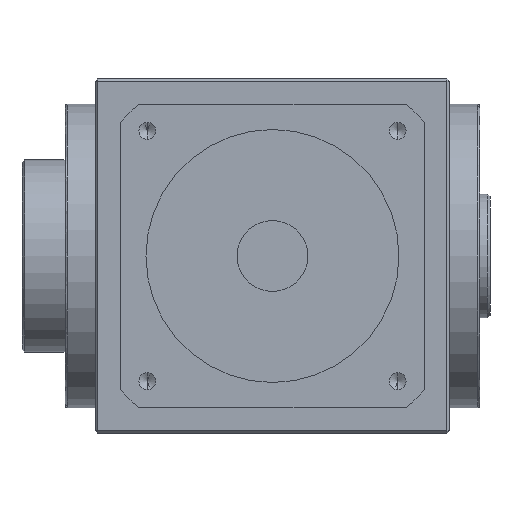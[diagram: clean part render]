
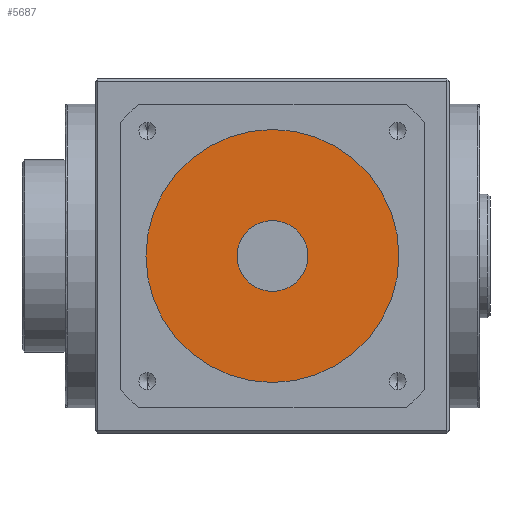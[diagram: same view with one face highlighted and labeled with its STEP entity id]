
A CAD part, front view. The second image highlights one B-rep face of the part: STEP entity #5687.
In plain terms, the highlighted planar face has unit normal (0, -1, 0).
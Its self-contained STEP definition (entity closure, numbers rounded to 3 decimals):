
#208 = CIRCLE ( 'NONE', #5066, 7. ) ;
#303 = CARTESIAN_POINT ( 'NONE',  ( 0., -114., 0. ) ) ;
#404 = DIRECTION ( 'NONE',  ( 0., 0., -1. ) ) ;
#574 = CIRCLE ( 'NONE', #7446, 7. ) ;
#621 = DIRECTION ( 'NONE',  ( 0., 0., -1. ) ) ;
#629 = DIRECTION ( 'NONE',  ( 0., -1., 0. ) ) ;
#632 = CARTESIAN_POINT ( 'NONE',  ( 0., -114., 0. ) ) ;
#952 = EDGE_CURVE ( 'NONE', #8731, #1978, #208, .T. ) ;
#1040 = DIRECTION ( 'NONE',  ( 0., 1., 0. ) ) ;
#1978 = VERTEX_POINT ( 'NONE', #2597 ) ;
#2450 = EDGE_CURVE ( 'NONE', #7404, #4600, #7549, .T. ) ;
#2597 = CARTESIAN_POINT ( 'NONE',  ( 0., -114., -7. ) ) ;
#2760 = EDGE_CURVE ( 'NONE', #1978, #8731, #574, .T. ) ;
#3068 = EDGE_CURVE ( 'NONE', #4600, #7404, #7067, .T. ) ;
#3407 = AXIS2_PLACEMENT_3D ( 'NONE', #7075, #6971, #6862 ) ;
#3652 = CARTESIAN_POINT ( 'NONE',  ( 0., -114., -25. ) ) ;
#4600 = VERTEX_POINT ( 'NONE', #3652 ) ;
#5066 = AXIS2_PLACEMENT_3D ( 'NONE', #8045, #8031, #8027 ) ;
#5423 = FACE_BOUND ( 'NONE', #6364, .T. ) ;
#5499 = DIRECTION ( 'NONE',  ( 0., 0., -1. ) ) ;
#5501 = DIRECTION ( 'NONE',  ( 0., -1., 0. ) ) ;
#5509 = CARTESIAN_POINT ( 'NONE',  ( 0., -114., 0. ) ) ;
#5687 = ADVANCED_FACE ( 'NONE', ( #5423, #5808 ), #7529, .T. ) ;
#5808 = FACE_OUTER_BOUND ( 'NONE', #6206, .T. ) ;
#6206 = EDGE_LOOP ( 'NONE', ( #6266, #6272 ) ) ;
#6255 = ORIENTED_EDGE ( 'NONE', *, *, #2760, .T. ) ;
#6257 = ORIENTED_EDGE ( 'NONE', *, *, #952, .T. ) ;
#6266 = ORIENTED_EDGE ( 'NONE', *, *, #3068, .T. ) ;
#6272 = ORIENTED_EDGE ( 'NONE', *, *, #2450, .T. ) ;
#6364 = EDGE_LOOP ( 'NONE', ( #6255, #6257 ) ) ;
#6862 = DIRECTION ( 'NONE',  ( 0., 0., -1. ) ) ;
#6926 = AXIS2_PLACEMENT_3D ( 'NONE', #5509, #5501, #5499 ) ;
#6971 = DIRECTION ( 'NONE',  ( 0., -1., 0. ) ) ;
#7058 = CARTESIAN_POINT ( 'NONE',  ( 0., -114., 7. ) ) ;
#7067 = CIRCLE ( 'NONE', #6926, 25. ) ;
#7075 = CARTESIAN_POINT ( 'NONE',  ( 0., -114., 0. ) ) ;
#7300 = CARTESIAN_POINT ( 'NONE',  ( 0., -114., 25. ) ) ;
#7404 = VERTEX_POINT ( 'NONE', #7300 ) ;
#7446 = AXIS2_PLACEMENT_3D ( 'NONE', #303, #1040, #404 ) ;
#7529 = PLANE ( 'NONE',  #3407 ) ;
#7549 = CIRCLE ( 'NONE', #7843, 25. ) ;
#7843 = AXIS2_PLACEMENT_3D ( 'NONE', #632, #629, #621 ) ;
#8027 = DIRECTION ( 'NONE',  ( 0., 0., -1. ) ) ;
#8031 = DIRECTION ( 'NONE',  ( 0., 1., 0. ) ) ;
#8045 = CARTESIAN_POINT ( 'NONE',  ( 0., -114., 0. ) ) ;
#8731 = VERTEX_POINT ( 'NONE', #7058 ) ;
